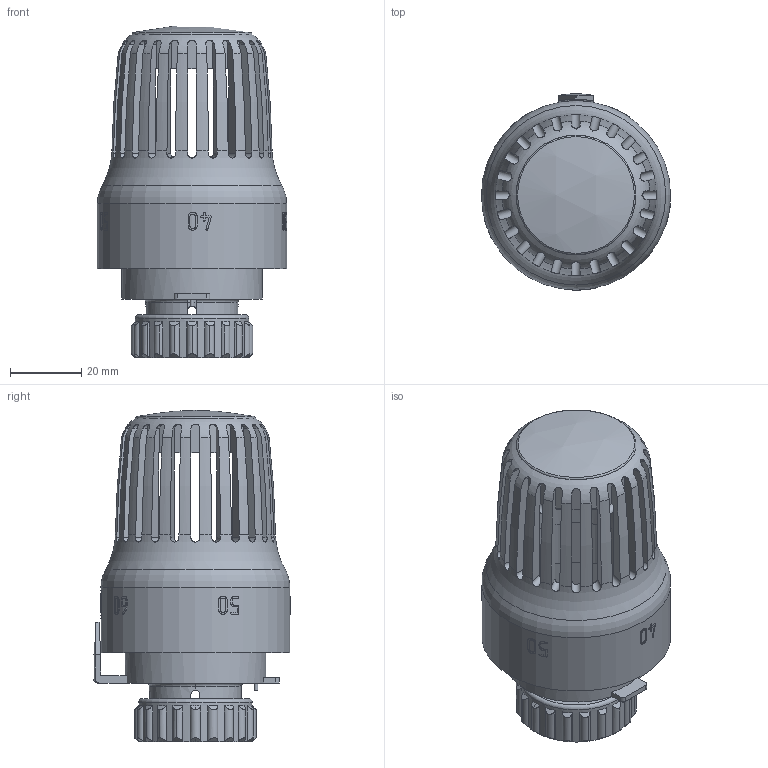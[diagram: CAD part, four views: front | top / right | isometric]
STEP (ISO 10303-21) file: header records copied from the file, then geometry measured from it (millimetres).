
FILE_DESCRIPTION(('TFLEX Exchange Step'),'2;1');
FILE_NAME('Thermostatic head with remote liquid sensor and sleeve 20-60C 30x1.5 VT.3011.0.0 Valtec.stp', '2023-09-12T17:03:29+03:00',('denis'),('Unknown organisation'),'TFLEX Exchange 2023.0','T-FLEX CAD','Unknown authorisation');
FILE_SCHEMA( ('AUTOMOTIVE_DESIGN { 1 0 10303 214 1 1 1 1 }') );
Length unit declared in the file: millimetre
Products named in the file (1): Nodes
Bounding box: 53 x 55 x 92.8 mm (x, y, z)
Volume: 41923.2 mm3; surface area: 35825.6 mm2
Topology: 14 solids, 17 shells, 622 faces, 1821 edges, 1197 vertices
Faces by surface type: plane 233, cylinder 184, bspline 136, cone 52, torus 15, sphere 2
Full cylindrical faces by diameter (mm): 1 x1, 24.6 x1, 25.8 x1, 27 x1, 27.1 x1, 28.376 x1, 29 x2, 31.871 x1, 32 x2, 33.5 x1, 33.558 x1, 36.5 x1, 37 x1, 39.5 x1, 40 x1, 45.5 x2, 47.5 x2, 50 x2, 53 x1
Entity records: 29194 total; most frequent: CARTESIAN_POINT 14026, ORIENTED_EDGE 3642, DIRECTION 2480, EDGE_CURVE 1821, VERTEX_POINT 1197, AXIS2_PLACEMENT_3D 896, B_SPLINE_CURVE_WITH_KNOTS 720, VECTOR 688
